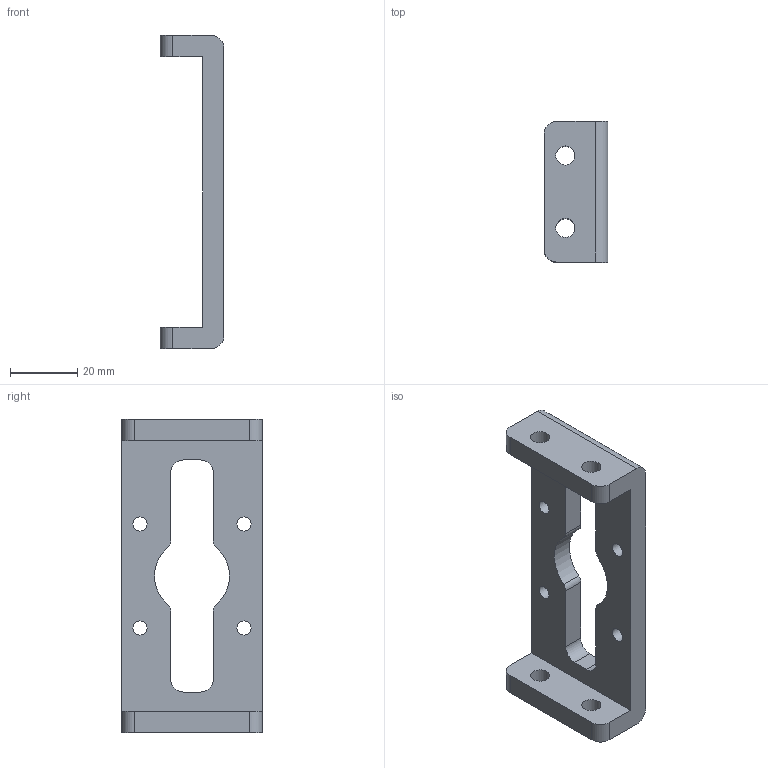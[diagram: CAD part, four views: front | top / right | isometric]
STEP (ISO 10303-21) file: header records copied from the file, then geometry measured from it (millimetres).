
FILE_DESCRIPTION(/* description */ ('STEP AP242 Edition 2','CAx-IF Rec.Pracs.---Representation and Presentation of Product Manufacturing Information (PMI)---4.0---2014-10-13','CAx-IF Rec.Pracs.---3D Tessellated Geometry---0.4---2014-09-14','2;1','CAx-IF Rec.Pracs.---User Defined Attributes---1.5---2016-08-15'),/* implementation_level */ '2;1');
FILE_NAME(/* name */ 'Assembly 1 - right plate',/* time_stamp */ '2026-09-25T20:07:29Z',/* author */ (''),/* organization */ (''),/* preprocessor_version */ 'ST-DEVELOPER v20',/* originating_system */ 'ONSHAPE BY PTC INC, 1.221',/* authorisation */ ' ');
FILE_SCHEMA (('AP242_MANAGED_MODEL_BASED_3D_ENGINEERING_MIM_LF { 1 0 10303 442 3 1 4 }'));
Length unit declared in the file: metre
Products named in the file (1): right plate
Bounding box: 19.05 x 41.91 x 93.29 mm (x, y, z)
Volume: 23946.4 mm3; surface area: 11298.2 mm2
Topology: 1 solids, 1 shells, 40 faces, 114 edges, 76 vertices
Faces by surface type: cylinder 24, plane 16
Full cylindrical faces by diameter (mm): 4.191 x4, 5.715 x4
Entity records: 1344 total; most frequent: DIRECTION 236, CARTESIAN_POINT 223, ORIENTED_EDGE 212, EDGE_CURVE 106, AXIS2_PLACEMENT_3D 89, VERTEX_POINT 76, EDGE_LOOP 66, FACE_BOUND 66
